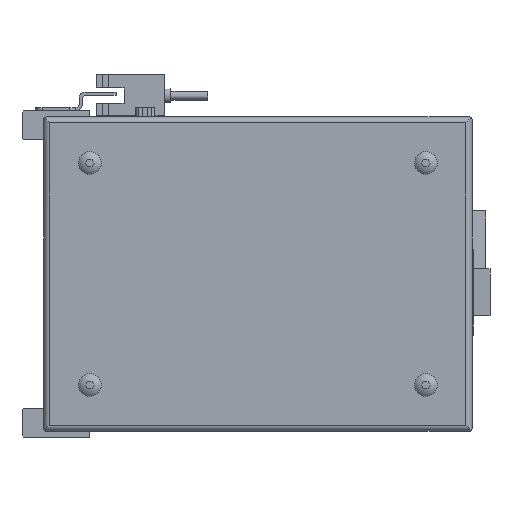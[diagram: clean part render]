
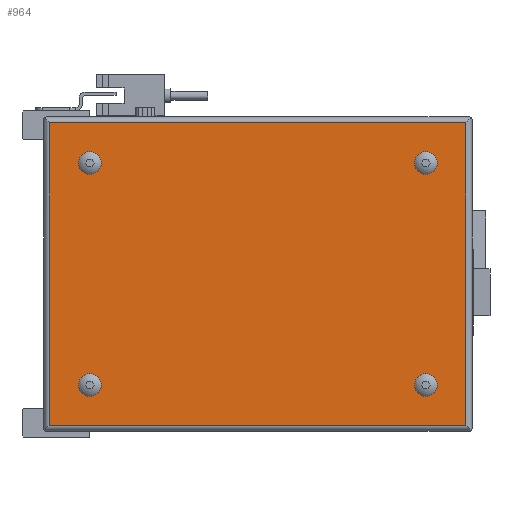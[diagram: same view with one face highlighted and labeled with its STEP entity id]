
A CAD part, left-side view. The second image highlights one B-rep face of the part: STEP entity #964.
In plain terms, the highlighted planar face has unit normal (-1, 0, 0).
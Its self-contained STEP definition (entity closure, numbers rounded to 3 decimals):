
#964 = ADVANCED_FACE( '', ( #2543, #2544, #2545, #2546, #2547 ), #2548, .F. );
#2543 = FACE_BOUND( '', #4990, .T. );
#2544 = FACE_BOUND( '', #4991, .T. );
#2545 = FACE_BOUND( '', #4992, .T. );
#2546 = FACE_BOUND( '', #4993, .T. );
#2547 = FACE_OUTER_BOUND( '', #4994, .T. );
#2548 = PLANE( '', #4995 );
#4990 = EDGE_LOOP( '', ( #7603 ) );
#4991 = EDGE_LOOP( '', ( #7604 ) );
#4992 = EDGE_LOOP( '', ( #7605 ) );
#4993 = EDGE_LOOP( '', ( #7606 ) );
#4994 = EDGE_LOOP( '', ( #7607, #7608, #7609, #7610 ) );
#4995 = AXIS2_PLACEMENT_3D( '', #7611, #7612, #7613 );
#7603 = ORIENTED_EDGE( '', *, *, #14184, .F. );
#7604 = ORIENTED_EDGE( '', *, *, #14185, .F. );
#7605 = ORIENTED_EDGE( '', *, *, #14164, .F. );
#7606 = ORIENTED_EDGE( '', *, *, #14186, .F. );
#7607 = ORIENTED_EDGE( '', *, *, #14187, .T. );
#7608 = ORIENTED_EDGE( '', *, *, #14188, .F. );
#7609 = ORIENTED_EDGE( '', *, *, #14000, .F. );
#7610 = ORIENTED_EDGE( '', *, *, #14189, .T. );
#7611 = CARTESIAN_POINT( '', ( -52., -75., 50. ) );
#7612 = DIRECTION( '', ( 1., 0., 0. ) );
#7613 = DIRECTION( '', ( 0., 0., -1. ) );
#14000 = EDGE_CURVE( '', #16589, #16590, #16591, .F. );
#14164 = EDGE_CURVE( '', #16897, #16897, #16898, .F. );
#14184 = EDGE_CURVE( '', #16934, #16934, #16935, .F. );
#14185 = EDGE_CURVE( '', #16936, #16936, #16937, .F. );
#14186 = EDGE_CURVE( '', #16938, #16938, #16939, .F. );
#14187 = EDGE_CURVE( '', #16940, #16941, #16942, .F. );
#14188 = EDGE_CURVE( '', #16590, #16941, #16943, .T. );
#14189 = EDGE_CURVE( '', #16589, #16940, #16944, .T. );
#16589 = VERTEX_POINT( '', #20464 );
#16590 = VERTEX_POINT( '', #20465 );
#16591 = LINE( '', #20466, #20467 );
#16897 = VERTEX_POINT( '', #21001 );
#16898 = CIRCLE( '', #21002, 3.7 );
#16934 = VERTEX_POINT( '', #21046 );
#16935 = CIRCLE( '', #21047, 3.7 );
#16936 = VERTEX_POINT( '', #21048 );
#16937 = CIRCLE( '', #21049, 3.7 );
#16938 = VERTEX_POINT( '', #21050 );
#16939 = CIRCLE( '', #21051, 3.7 );
#16940 = VERTEX_POINT( '', #21052 );
#16941 = VERTEX_POINT( '', #21053 );
#16942 = LINE( '', #21054, #21055 );
#16943 = LINE( '', #21056, #21057 );
#16944 = LINE( '', #21058, #21059 );
#20464 = CARTESIAN_POINT( '', ( -52., -74., -49. ) );
#20465 = CARTESIAN_POINT( '', ( -52., 61., -49. ) );
#20466 = CARTESIAN_POINT( '', ( -52., 139., -49. ) );
#20467 = VECTOR( '', #26271, 1000. );
#21001 = CARTESIAN_POINT( '', ( -52., 48., 32.3 ) );
#21002 = AXIS2_PLACEMENT_3D( '', #26494, #26495, #26496 );
#21046 = CARTESIAN_POINT( '', ( -52., -61., 32.3 ) );
#21047 = AXIS2_PLACEMENT_3D( '', #26529, #26530, #26531 );
#21048 = CARTESIAN_POINT( '', ( -52., -61., -39.7 ) );
#21049 = AXIS2_PLACEMENT_3D( '', #26532, #26533, #26534 );
#21050 = CARTESIAN_POINT( '', ( -52., 48., -39.7 ) );
#21051 = AXIS2_PLACEMENT_3D( '', #26535, #26536, #26537 );
#21052 = CARTESIAN_POINT( '', ( -52., -74., 49. ) );
#21053 = CARTESIAN_POINT( '', ( -52., 61., 49. ) );
#21054 = CARTESIAN_POINT( '', ( -52., 139., 49. ) );
#21055 = VECTOR( '', #26538, 1000. );
#21056 = CARTESIAN_POINT( '', ( -52., 61., -102. ) );
#21057 = VECTOR( '', #26539, 1000. );
#21058 = CARTESIAN_POINT( '', ( -52., -74., -102. ) );
#21059 = VECTOR( '', #26540, 1000. );
#26271 = DIRECTION( '', ( 0., -1., 0. ) );
#26494 = CARTESIAN_POINT( '', ( -52., 48., 36. ) );
#26495 = DIRECTION( '', ( 1., 0., 0. ) );
#26496 = DIRECTION( '', ( 0., 0., -1. ) );
#26529 = CARTESIAN_POINT( '', ( -52., -61., 36. ) );
#26530 = DIRECTION( '', ( 1., 0., 0. ) );
#26531 = DIRECTION( '', ( 0., 0., -1. ) );
#26532 = CARTESIAN_POINT( '', ( -52., -61., -36. ) );
#26533 = DIRECTION( '', ( 1., 0., 0. ) );
#26534 = DIRECTION( '', ( 0., 0., -1. ) );
#26535 = CARTESIAN_POINT( '', ( -52., 48., -36. ) );
#26536 = DIRECTION( '', ( 1., 0., 0. ) );
#26537 = DIRECTION( '', ( 0., 0., -1. ) );
#26538 = DIRECTION( '', ( 0., -1., 0. ) );
#26539 = DIRECTION( '', ( 0., 0., 1. ) );
#26540 = DIRECTION( '', ( 0., 0., 1. ) );
